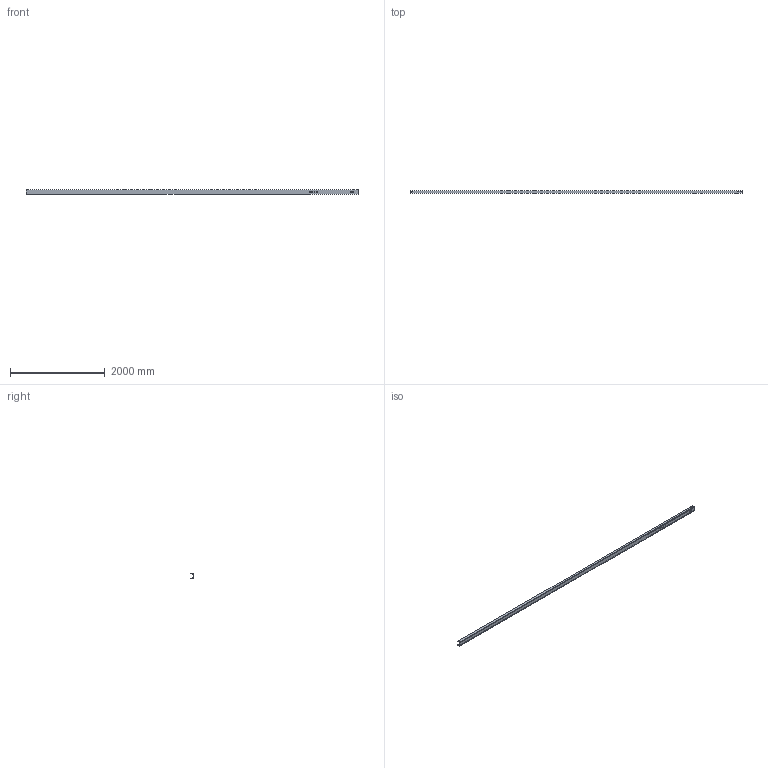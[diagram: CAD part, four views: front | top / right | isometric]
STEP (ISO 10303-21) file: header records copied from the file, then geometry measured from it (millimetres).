
FILE_DESCRIPTION (( 'STEP AP214' ), '1' );
FILE_NAME ('CCJ029-REP.007 - POUTRE B1-B4.STEP', '2024-01-29T11:10:27', ( '' ), ( '' ), 'SwSTEP 2.0', 'SolidWorks 2021', '' );
FILE_SCHEMA (( 'AUTOMOTIVE_DESIGN' ));
Length unit declared in the file: millimetre
Products named in the file (1): CCJ029-REP.007 - POUTRE B1-B4
Bounding box: 6995 x 55 x 100 mm (x, y, z)
Volume: 8729773.4 mm3; surface area: 2817083.1 mm2
Topology: 1 solids, 1 shells, 75 faces, 204 edges, 136 vertices
Faces by surface type: cylinder 36, plane 21, bspline 18
Entity records: 3936 total; most frequent: CARTESIAN_POINT 1986, ORIENTED_EDGE 408, DIRECTION 356, EDGE_CURVE 204, VERTEX_POINT 136, AXIS2_PLACEMENT_3D 130, EDGE_LOOP 114, LINE 96
